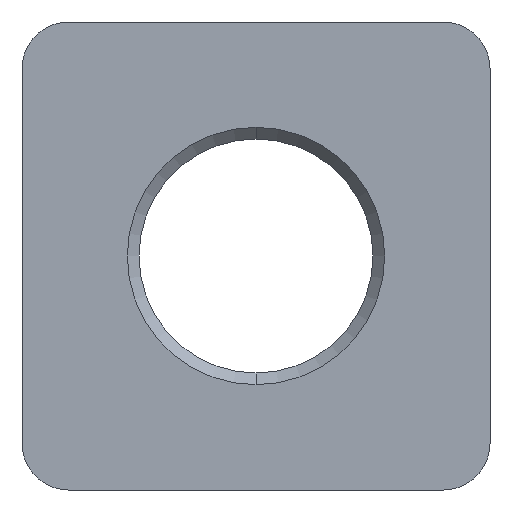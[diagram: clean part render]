
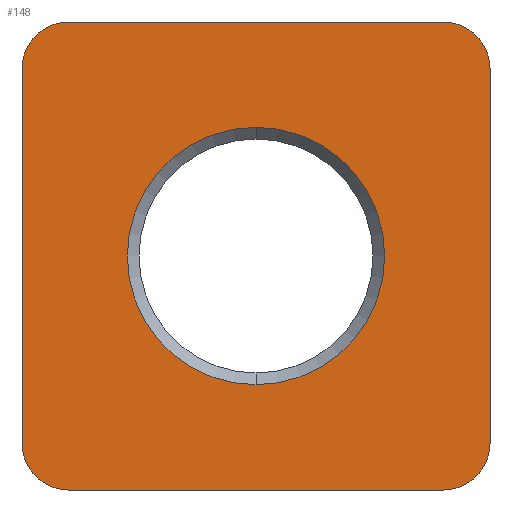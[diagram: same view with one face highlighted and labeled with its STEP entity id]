
A CAD part, front view. The second image highlights one B-rep face of the part: STEP entity #148.
In plain terms, the highlighted planar face has unit normal (0, -1, 0).
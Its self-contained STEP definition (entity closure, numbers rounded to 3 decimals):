
#19 = VERTEX_POINT ( 'NONE', #282 ) ;
#147 = EDGE_LOOP ( 'NONE', ( #149, #150 ) ) ;
#148 = ADVANCED_FACE ( 'NONE', ( #498, #492 ), #491, .F. ) ;
#149 = ORIENTED_EDGE ( 'NONE', *, *, #548, .T. ) ;
#150 = ORIENTED_EDGE ( 'NONE', *, *, #151, .T. ) ;
#151 = EDGE_CURVE ( 'NONE', #699, #19, #489, .T. ) ;
#152 = EDGE_CURVE ( 'NONE', #1125, #1113, #481, .T. ) ;
#153 = EDGE_LOOP ( 'NONE', ( #154, #155, #156, #157, #158, #159, #160, #161 ) ) ;
#154 = ORIENTED_EDGE ( 'NONE', *, *, #1104, .F. ) ;
#155 = ORIENTED_EDGE ( 'NONE', *, *, #152, .F. ) ;
#156 = ORIENTED_EDGE ( 'NONE', *, *, #242, .F. ) ;
#157 = ORIENTED_EDGE ( 'NONE', *, *, #1122, .F. ) ;
#158 = ORIENTED_EDGE ( 'NONE', *, *, #1114, .F. ) ;
#159 = ORIENTED_EDGE ( 'NONE', *, *, #1157, .F. ) ;
#160 = ORIENTED_EDGE ( 'NONE', *, *, #1127, .F. ) ;
#161 = ORIENTED_EDGE ( 'NONE', *, *, #1152, .F. ) ;
#242 = EDGE_CURVE ( 'NONE', #1101, #1125, #575, .T. ) ;
#282 = CARTESIAN_POINT ( 'NONE',  ( 0., 0., -11. ) ) ;
#478 = DIRECTION ( 'NONE',  ( -1., 0., 0. ) ) ;
#479 = VECTOR ( 'NONE', #478, 1000. ) ;
#480 = CARTESIAN_POINT ( 'NONE',  ( -16., 0., -20. ) ) ;
#481 = LINE ( 'NONE', #480, #479 ) ;
#482 = DIRECTION ( 'NONE',  ( 0., 0., 1. ) ) ;
#483 = DIRECTION ( 'NONE',  ( 0., 1., 0. ) ) ;
#484 = CARTESIAN_POINT ( 'NONE',  ( 0., 0., 0. ) ) ;
#485 = AXIS2_PLACEMENT_3D ( 'NONE', #484, #483, #482 ) ;
#486 = DIRECTION ( 'NONE',  ( 0., 0., 1. ) ) ;
#487 = DIRECTION ( 'NONE',  ( 0., 1., 0. ) ) ;
#488 = CARTESIAN_POINT ( 'NONE',  ( -16., 0., -16. ) ) ;
#489 = CIRCLE ( 'NONE', #485, 11. ) ;
#490 = AXIS2_PLACEMENT_3D ( 'NONE', #488, #487, #486 ) ;
#491 = PLANE ( 'NONE',  #490 ) ;
#492 = FACE_OUTER_BOUND ( 'NONE', #153, .T. ) ;
#498 = FACE_BOUND ( 'NONE', #147, .T. ) ;
#548 = EDGE_CURVE ( 'NONE', #19, #699, #615, .T. ) ;
#575 = CIRCLE ( 'NONE', #633, 4. ) ;
#610 = CARTESIAN_POINT ( 'NONE',  ( 0., 0., 11. ) ) ;
#611 = DIRECTION ( 'NONE',  ( 0., 0., 1. ) ) ;
#612 = DIRECTION ( 'NONE',  ( 0., 1., 0. ) ) ;
#613 = CARTESIAN_POINT ( 'NONE',  ( 0., 0., 0. ) ) ;
#614 = AXIS2_PLACEMENT_3D ( 'NONE', #613, #612, #611 ) ;
#615 = CIRCLE ( 'NONE', #614, 11. ) ;
#630 = DIRECTION ( 'NONE',  ( 0., 0., -1. ) ) ;
#631 = DIRECTION ( 'NONE',  ( 0., 1., 0. ) ) ;
#632 = CARTESIAN_POINT ( 'NONE',  ( 16., 0., -16. ) ) ;
#633 = AXIS2_PLACEMENT_3D ( 'NONE', #632, #631, #630 ) ;
#636 = CARTESIAN_POINT ( 'NONE',  ( -20., 0., 16. ) ) ;
#694 = CARTESIAN_POINT ( 'NONE',  ( -20., 0., -16. ) ) ;
#699 = VERTEX_POINT ( 'NONE', #610 ) ;
#771 = CARTESIAN_POINT ( 'NONE',  ( 20., 0., -16. ) ) ;
#804 = CARTESIAN_POINT ( 'NONE',  ( 20., 0., 16. ) ) ;
#805 = DIRECTION ( 'NONE',  ( 0., 0., 1. ) ) ;
#806 = DIRECTION ( 'NONE',  ( 0., 1., 0. ) ) ;
#807 = CARTESIAN_POINT ( 'NONE',  ( 16., 0., 16. ) ) ;
#808 = AXIS2_PLACEMENT_3D ( 'NONE', #807, #806, #805 ) ;
#809 = CIRCLE ( 'NONE', #808, 4. ) ;
#810 = CARTESIAN_POINT ( 'NONE',  ( -16., 0., -20. ) ) ;
#820 = DIRECTION ( 'NONE',  ( 0., 0., 1. ) ) ;
#821 = DIRECTION ( 'NONE',  ( 0., 1., 0. ) ) ;
#822 = CARTESIAN_POINT ( 'NONE',  ( -16., 0., -16. ) ) ;
#823 = AXIS2_PLACEMENT_3D ( 'NONE', #822, #821, #820 ) ;
#824 = CIRCLE ( 'NONE', #823, 4. ) ;
#838 = DIRECTION ( 'NONE',  ( 0., 0., -1. ) ) ;
#839 = DIRECTION ( 'NONE',  ( 0., 1., 0. ) ) ;
#840 = CARTESIAN_POINT ( 'NONE',  ( -16., 0., 16. ) ) ;
#841 = AXIS2_PLACEMENT_3D ( 'NONE', #840, #839, #838 ) ;
#842 = CIRCLE ( 'NONE', #841, 4. ) ;
#847 = CARTESIAN_POINT ( 'NONE',  ( 16., 0., -20. ) ) ;
#851 = DIRECTION ( 'NONE',  ( 0., 0., -1. ) ) ;
#852 = VECTOR ( 'NONE', #851, 1000. ) ;
#853 = CARTESIAN_POINT ( 'NONE',  ( 20., 0., 16. ) ) ;
#854 = LINE ( 'NONE', #853, #852 ) ;
#862 = DIRECTION ( 'NONE',  ( 0., 0., 1. ) ) ;
#863 = VECTOR ( 'NONE', #862, 1000. ) ;
#864 = CARTESIAN_POINT ( 'NONE',  ( -20., 0., 16. ) ) ;
#865 = LINE ( 'NONE', #864, #863 ) ;
#877 = CARTESIAN_POINT ( 'NONE',  ( -16., 0., 20. ) ) ;
#897 = CARTESIAN_POINT ( 'NONE',  ( 16., 0., 20. ) ) ;
#913 = DIRECTION ( 'NONE',  ( 1., 0., 0. ) ) ;
#914 = VECTOR ( 'NONE', #913, 1000. ) ;
#915 = CARTESIAN_POINT ( 'NONE',  ( -16., 0., 20. ) ) ;
#916 = LINE ( 'NONE', #915, #914 ) ;
#1027 = VERTEX_POINT ( 'NONE', #636 ) ;
#1029 = VERTEX_POINT ( 'NONE', #694 ) ;
#1101 = VERTEX_POINT ( 'NONE', #771 ) ;
#1104 = EDGE_CURVE ( 'NONE', #1113, #1029, #824, .T. ) ;
#1113 = VERTEX_POINT ( 'NONE', #810 ) ;
#1114 = EDGE_CURVE ( 'NONE', #1167, #1116, #809, .T. ) ;
#1116 = VERTEX_POINT ( 'NONE', #804 ) ;
#1122 = EDGE_CURVE ( 'NONE', #1116, #1101, #854, .T. ) ;
#1125 = VERTEX_POINT ( 'NONE', #847 ) ;
#1127 = EDGE_CURVE ( 'NONE', #1027, #1141, #842, .T. ) ;
#1141 = VERTEX_POINT ( 'NONE', #877 ) ;
#1152 = EDGE_CURVE ( 'NONE', #1029, #1027, #865, .T. ) ;
#1157 = EDGE_CURVE ( 'NONE', #1141, #1167, #916, .T. ) ;
#1167 = VERTEX_POINT ( 'NONE', #897 ) ;
